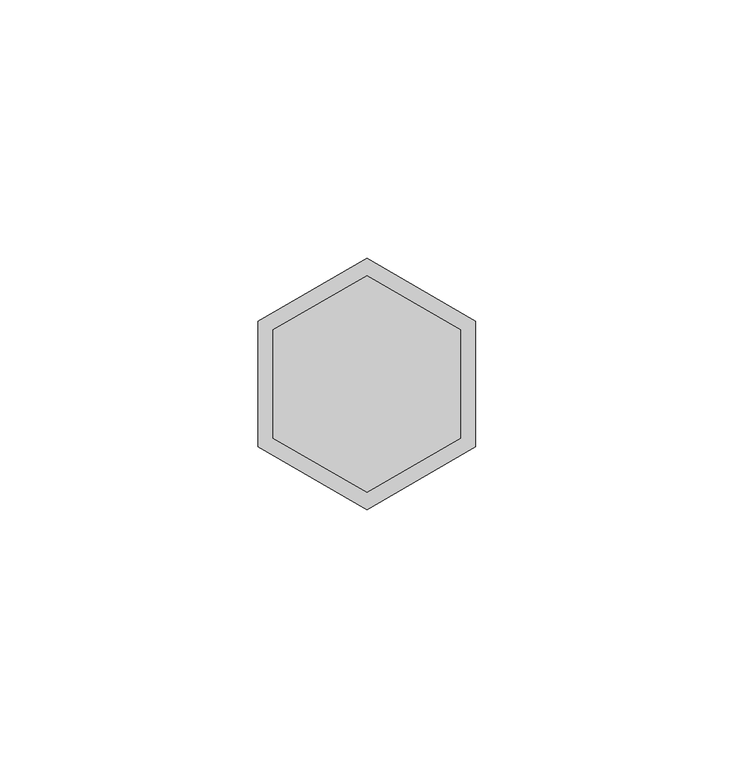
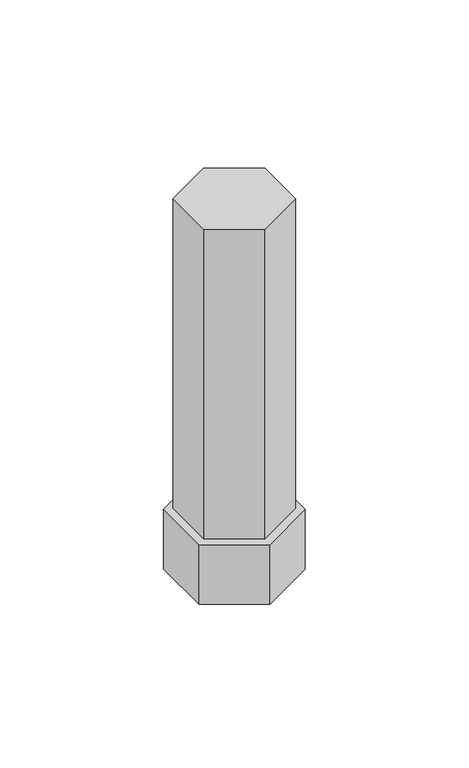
"""IFC4 building model written with IfcOpenShell, lengths in millimetres: proxy geometry, 梁枠部品ピン_軽 : 梁枠部品ピン_軽."""

from ifc_helpers import new_model, si_unit, frame, origin, place, context, project, spatial, polyline, outline, extrude, source, transform, mapped, element, save


def generic_models_d6438b01(model_context):
    return source(origin(), model_context, "Body", "SweptSolid", [
        extrude(outline(polyline([(21.0444173, 12.15), (21.0444173, -12.15), (0.0, -24.3), (-21.0444173, -12.15), (-21.0444173, 12.15), (0.0, 24.3), (21.0444173, 12.15)])), frame((0.0, 0.0, 45.0), z_axis=(0.0, 0.0, 1.0), x_axis=(1.0, 0.0, 0.0)), (0.0, 0.0, 1.0), 25.0),
        extrude(outline(polyline([(-18.1432322, -10.475), (-18.1432322, 10.475), (0.0, 20.95), (18.1432322, 10.475), (18.1432322, -10.475), (0.0, -20.95), (-18.1432322, -10.475)])), frame((0.0, 0.0, 70.0), z_axis=(0.0, 0.0, 1.0), x_axis=(1.0, 0.0, 0.0)), (0.0, 0.0, 1.0), 130.0000051),
    ])


if __name__ == "__main__":
    model = new_model("IFC4")
    model_context = context("Model", 3, world=origin())
    ifc_project = project(units=[si_unit("LENGTHUNIT", "METRE", prefix="MILLI")], contexts=[model_context])
    site = spatial("IfcSite", under=ifc_project)
    building = spatial("IfcBuilding", under=site)
    placement = place(None, origin())
    generic_models_shape = generic_models_d6438b01(model_context)
    element("IfcBuildingElementProxy", 1, Name="梁枠部品ピン_軽 : 梁枠部品ピン_軽", ObjectType="梁枠部品ピン_軽 : 梁枠部品ピン_軽", at=placement, inside=building, context=model_context, shape_type="MappedRepresentation", body=[
        mapped(generic_models_shape, transform((0.0, 0.0, 0.0), x_axis=(1.0, 0.0, 0.0), y_axis=(0.0, 1.0, 0.0), z_axis=(0.0, 0.0, 1.0))),
    ])
    save(model, "model.ifc")
